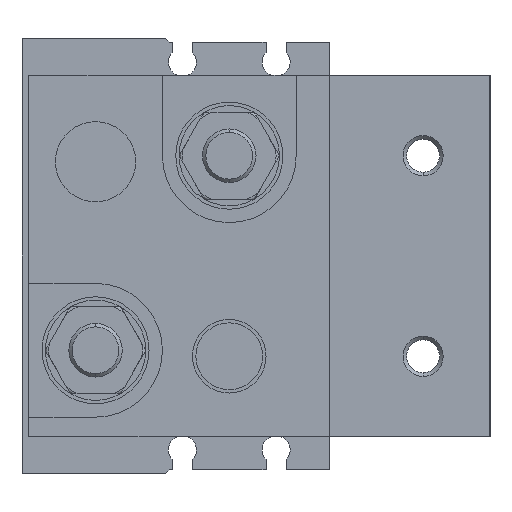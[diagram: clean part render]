
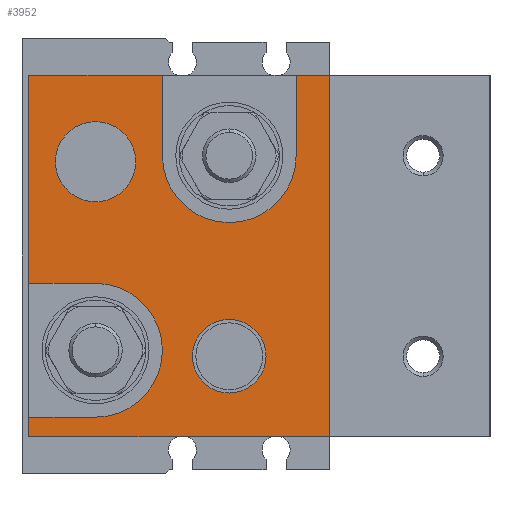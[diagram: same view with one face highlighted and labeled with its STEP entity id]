
A CAD part, left-side view. The second image highlights one B-rep face of the part: STEP entity #3952.
In plain terms, the highlighted planar face has unit normal (-1, 0, 0) as drawn and (1, 0, 0) by its records, which use the part's own axes.
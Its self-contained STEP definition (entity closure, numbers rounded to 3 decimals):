
#56 = CARTESIAN_POINT ( 'NONE',  ( 77., 22., 24.1 ) ) ;
#165 = DIRECTION ( 'NONE',  ( 0., 0., 1. ) ) ;
#288 = DIRECTION ( 'NONE',  ( 0., -1., 0. ) ) ;
#645 = DIRECTION ( 'NONE',  ( 0., 0., 1. ) ) ;
#767 = LINE ( 'NONE', #10519, #3775 ) ;
#818 = LINE ( 'NONE', #2701, #19268 ) ;
#893 = CARTESIAN_POINT ( 'NONE',  ( 77., 2., -15. ) ) ;
#951 = VERTEX_POINT ( 'NONE', #19580 ) ;
#1305 = ORIENTED_EDGE ( 'NONE', *, *, #11430, .T. ) ;
#1372 = VERTEX_POINT ( 'NONE', #9199 ) ;
#1526 = ORIENTED_EDGE ( 'NONE', *, *, #6523, .T. ) ;
#1723 = VERTEX_POINT ( 'NONE', #56 ) ;
#2009 = CARTESIAN_POINT ( 'NONE',  ( 77., -8., 9.5 ) ) ;
#2201 = ORIENTED_EDGE ( 'NONE', *, *, #14129, .F. ) ;
#2232 = DIRECTION ( 'NONE',  ( 0., -1., 0. ) ) ;
#2460 = AXIS2_PLACEMENT_3D ( 'NONE', #14056, #3700, #17604 ) ;
#2475 = VERTEX_POINT ( 'NONE', #2539 ) ;
#2539 = CARTESIAN_POINT ( 'NONE',  ( 77., 12., -8.1 ) ) ;
#2624 = LINE ( 'NONE', #21512, #20797 ) ;
#2628 = FACE_BOUND ( 'NONE', #5411, .T. ) ;
#2701 = CARTESIAN_POINT ( 'NONE',  ( 77., -23., 0. ) ) ;
#2884 = CARTESIAN_POINT ( 'NONE',  ( 77., 12., 24.1 ) ) ;
#2924 = VERTEX_POINT ( 'NONE', #13782 ) ;
#3322 = AXIS2_PLACEMENT_3D ( 'NONE', #14179, #12586, #21160 ) ;
#3433 = CIRCLE ( 'NONE', #3322, 5.5 ) ;
#3437 = LINE ( 'NONE', #21418, #6687 ) ;
#3551 = VERTEX_POINT ( 'NONE', #10973 ) ;
#3660 = DIRECTION ( 'NONE',  ( -1., 0., 0. ) ) ;
#3700 = DIRECTION ( 'NONE',  ( -1., 0., 0. ) ) ;
#3775 = VECTOR ( 'NONE', #19219, 1000. ) ;
#3952 = ADVANCED_FACE ( 'NONE', ( #14829, #2628, #4287 ), #20854, .T. ) ;
#4264 = VECTOR ( 'NONE', #18969, 1000. ) ;
#4287 = FACE_OUTER_BOUND ( 'NONE', #20383, .T. ) ;
#4479 = CARTESIAN_POINT ( 'NONE',  ( 77., -8., 15. ) ) ;
#4533 = EDGE_CURVE ( 'NONE', #16129, #951, #3437, .T. ) ;
#4584 = LINE ( 'NONE', #21864, #8654 ) ;
#5401 = AXIS2_PLACEMENT_3D ( 'NONE', #19120, #13939, #7241 ) ;
#5411 = EDGE_LOOP ( 'NONE', ( #1526, #11658 ) ) ;
#5598 = DIRECTION ( 'NONE',  ( 0., 0., 1. ) ) ;
#5705 = ORIENTED_EDGE ( 'NONE', *, *, #17643, .T. ) ;
#5783 = DIRECTION ( 'NONE',  ( 0., 0., 1. ) ) ;
#5906 = DIRECTION ( 'NONE',  ( 0., 0., -1. ) ) ;
#6172 = VERTEX_POINT ( 'NONE', #2884 ) ;
#6209 = DIRECTION ( 'NONE',  ( 0., 0., 1. ) ) ;
#6523 = EDGE_CURVE ( 'NONE', #2924, #10582, #13255, .T. ) ;
#6687 = VECTOR ( 'NONE', #21644, 1000. ) ;
#6954 = DIRECTION ( 'NONE',  ( -1., 0., 0. ) ) ;
#7175 = VERTEX_POINT ( 'NONE', #8079 ) ;
#7241 = DIRECTION ( 'NONE',  ( 0., 0., -1. ) ) ;
#7248 = EDGE_CURVE ( 'NONE', #10844, #20362, #767, .T. ) ;
#7274 = DIRECTION ( 'NONE',  ( -1., 0., 0. ) ) ;
#7622 = CARTESIAN_POINT ( 'NONE',  ( 77., 22., 27. ) ) ;
#8027 = VECTOR ( 'NONE', #2232, 1000. ) ;
#8045 = EDGE_CURVE ( 'NONE', #19425, #1372, #13699, .T. ) ;
#8079 = CARTESIAN_POINT ( 'NONE',  ( 77., -8., -5. ) ) ;
#8529 = ORIENTED_EDGE ( 'NONE', *, *, #20617, .T. ) ;
#8612 = ORIENTED_EDGE ( 'NONE', *, *, #14870, .T. ) ;
#8654 = VECTOR ( 'NONE', #11488, 1000. ) ;
#8680 = ORIENTED_EDGE ( 'NONE', *, *, #17021, .T. ) ;
#8803 = ORIENTED_EDGE ( 'NONE', *, *, #8045, .T. ) ;
#8808 = CARTESIAN_POINT ( 'NONE',  ( 77., -18., -15. ) ) ;
#8885 = LINE ( 'NONE', #20941, #4264 ) ;
#8904 = CIRCLE ( 'NONE', #18955, 6. ) ;
#9116 = VERTEX_POINT ( 'NONE', #7622 ) ;
#9199 = CARTESIAN_POINT ( 'NONE',  ( 77., 12., 4.1 ) ) ;
#9508 = AXIS2_PLACEMENT_3D ( 'NONE', #4479, #16548, #6209 ) ;
#9714 = ORIENTED_EDGE ( 'NONE', *, *, #20858, .F. ) ;
#9854 = EDGE_CURVE ( 'NONE', #14717, #20362, #818, .T. ) ;
#9936 = ORIENTED_EDGE ( 'NONE', *, *, #9854, .T. ) ;
#10158 = AXIS2_PLACEMENT_3D ( 'NONE', #17237, #3660, #165 ) ;
#10519 = CARTESIAN_POINT ( 'NONE',  ( 77., -47., -27. ) ) ;
#10582 = VERTEX_POINT ( 'NONE', #2009 ) ;
#10789 = ORIENTED_EDGE ( 'NONE', *, *, #18441, .T. ) ;
#10844 = VERTEX_POINT ( 'NONE', #18405 ) ;
#10973 = CARTESIAN_POINT ( 'NONE',  ( 77., 12., -20.1 ) ) ;
#11056 = CARTESIAN_POINT ( 'NONE',  ( 77., -8., -15. ) ) ;
#11430 = EDGE_CURVE ( 'NONE', #3551, #2475, #8904, .T. ) ;
#11488 = DIRECTION ( 'NONE',  ( 0., 0., -1. ) ) ;
#11513 = CIRCLE ( 'NONE', #17845, 6. ) ;
#11658 = ORIENTED_EDGE ( 'NONE', *, *, #14213, .T. ) ;
#12301 = CARTESIAN_POINT ( 'NONE',  ( 77., -18., 0. ) ) ;
#12520 = CARTESIAN_POINT ( 'NONE',  ( 77., 0., 4.1 ) ) ;
#12586 = DIRECTION ( 'NONE',  ( -1., 0., 0. ) ) ;
#12758 = DIRECTION ( 'NONE',  ( -1., 0., 0. ) ) ;
#12934 = CARTESIAN_POINT ( 'NONE',  ( 77., -23., 27. ) ) ;
#12950 = CARTESIAN_POINT ( 'NONE',  ( 77., 22., 4.1 ) ) ;
#13255 = CIRCLE ( 'NONE', #9508, 5.5 ) ;
#13400 = EDGE_CURVE ( 'NONE', #9116, #1723, #4584, .T. ) ;
#13679 = CARTESIAN_POINT ( 'NONE',  ( 77., 12., -14.1 ) ) ;
#13684 = EDGE_LOOP ( 'NONE', ( #8612, #1305 ) ) ;
#13699 = LINE ( 'NONE', #12520, #8027 ) ;
#13782 = CARTESIAN_POINT ( 'NONE',  ( 77., -8., 20.5 ) ) ;
#13898 = CARTESIAN_POINT ( 'NONE',  ( 77., -47., -27. ) ) ;
#13939 = DIRECTION ( 'NONE',  ( 1., 0., 0. ) ) ;
#13978 = CARTESIAN_POINT ( 'NONE',  ( 77., 22., -27. ) ) ;
#14056 = CARTESIAN_POINT ( 'NONE',  ( 77., 12., 14.1 ) ) ;
#14129 = EDGE_CURVE ( 'NONE', #14717, #9116, #8885, .T. ) ;
#14179 = CARTESIAN_POINT ( 'NONE',  ( 77., -8., 15. ) ) ;
#14201 = CIRCLE ( 'NONE', #2460, 10. ) ;
#14213 = EDGE_CURVE ( 'NONE', #10582, #2924, #3433, .T. ) ;
#14475 = VERTEX_POINT ( 'NONE', #8808 ) ;
#14662 = ORIENTED_EDGE ( 'NONE', *, *, #4533, .T. ) ;
#14717 = VERTEX_POINT ( 'NONE', #12934 ) ;
#14829 = FACE_BOUND ( 'NONE', #13684, .T. ) ;
#14870 = EDGE_CURVE ( 'NONE', #2475, #3551, #11513, .T. ) ;
#15034 = LINE ( 'NONE', #12301, #16887 ) ;
#15269 = LINE ( 'NONE', #19882, #15816 ) ;
#15488 = DIRECTION ( 'NONE',  ( 0., 0., 1. ) ) ;
#15620 = ORIENTED_EDGE ( 'NONE', *, *, #13400, .F. ) ;
#15734 = LINE ( 'NONE', #13898, #20916 ) ;
#15816 = VECTOR ( 'NONE', #21622, 1000. ) ;
#16129 = VERTEX_POINT ( 'NONE', #893 ) ;
#16548 = DIRECTION ( 'NONE',  ( -1., 0., 0. ) ) ;
#16887 = VECTOR ( 'NONE', #5783, 1000. ) ;
#16905 = EDGE_CURVE ( 'NONE', #18512, #951, #15734, .T. ) ;
#16955 = ORIENTED_EDGE ( 'NONE', *, *, #7248, .F. ) ;
#17021 = EDGE_CURVE ( 'NONE', #7175, #16129, #18163, .T. ) ;
#17237 = CARTESIAN_POINT ( 'NONE',  ( 77., -8., -15. ) ) ;
#17529 = CIRCLE ( 'NONE', #10158, 10. ) ;
#17604 = DIRECTION ( 'NONE',  ( 0., 0., 1. ) ) ;
#17606 = CARTESIAN_POINT ( 'NONE',  ( 77., 12., -14.1 ) ) ;
#17643 = EDGE_CURVE ( 'NONE', #10844, #14475, #15034, .T. ) ;
#17845 = AXIS2_PLACEMENT_3D ( 'NONE', #13679, #6954, #15488 ) ;
#18163 = CIRCLE ( 'NONE', #18604, 10. ) ;
#18405 = CARTESIAN_POINT ( 'NONE',  ( 77., -18., -27. ) ) ;
#18441 = EDGE_CURVE ( 'NONE', #1372, #6172, #14201, .T. ) ;
#18512 = VERTEX_POINT ( 'NONE', #13978 ) ;
#18604 = AXIS2_PLACEMENT_3D ( 'NONE', #11056, #12758, #645 ) ;
#18688 = EDGE_CURVE ( 'NONE', #6172, #1723, #15269, .T. ) ;
#18790 = CARTESIAN_POINT ( 'NONE',  ( 77., -23., -27. ) ) ;
#18955 = AXIS2_PLACEMENT_3D ( 'NONE', #17606, #7274, #5598 ) ;
#18969 = DIRECTION ( 'NONE',  ( 0., 1., 0. ) ) ;
#19120 = CARTESIAN_POINT ( 'NONE',  ( 77., 0., 0. ) ) ;
#19219 = DIRECTION ( 'NONE',  ( 0., -1., 0. ) ) ;
#19268 = VECTOR ( 'NONE', #21810, 1000. ) ;
#19425 = VERTEX_POINT ( 'NONE', #12950 ) ;
#19580 = CARTESIAN_POINT ( 'NONE',  ( 77., 2., -27. ) ) ;
#19882 = CARTESIAN_POINT ( 'NONE',  ( 77., 0., 24.1 ) ) ;
#20362 = VERTEX_POINT ( 'NONE', #18790 ) ;
#20383 = EDGE_LOOP ( 'NONE', ( #5705, #8529, #8680, #14662, #21521, #9714, #8803, #10789, #20442, #15620, #2201, #9936, #16955 ) ) ;
#20442 = ORIENTED_EDGE ( 'NONE', *, *, #18688, .T. ) ;
#20617 = EDGE_CURVE ( 'NONE', #14475, #7175, #17529, .T. ) ;
#20797 = VECTOR ( 'NONE', #5906, 1000. ) ;
#20854 = PLANE ( 'NONE',  #5401 ) ;
#20858 = EDGE_CURVE ( 'NONE', #19425, #18512, #2624, .T. ) ;
#20916 = VECTOR ( 'NONE', #288, 1000. ) ;
#20941 = CARTESIAN_POINT ( 'NONE',  ( 77., 22., 27. ) ) ;
#21160 = DIRECTION ( 'NONE',  ( 0., 0., 1. ) ) ;
#21418 = CARTESIAN_POINT ( 'NONE',  ( 77., 2., 0. ) ) ;
#21512 = CARTESIAN_POINT ( 'NONE',  ( 77., 22., -27. ) ) ;
#21521 = ORIENTED_EDGE ( 'NONE', *, *, #16905, .F. ) ;
#21622 = DIRECTION ( 'NONE',  ( 0., 1., 0. ) ) ;
#21644 = DIRECTION ( 'NONE',  ( 0., 0., -1. ) ) ;
#21810 = DIRECTION ( 'NONE',  ( 0., 0., -1. ) ) ;
#21864 = CARTESIAN_POINT ( 'NONE',  ( 77., 22., -27. ) ) ;
